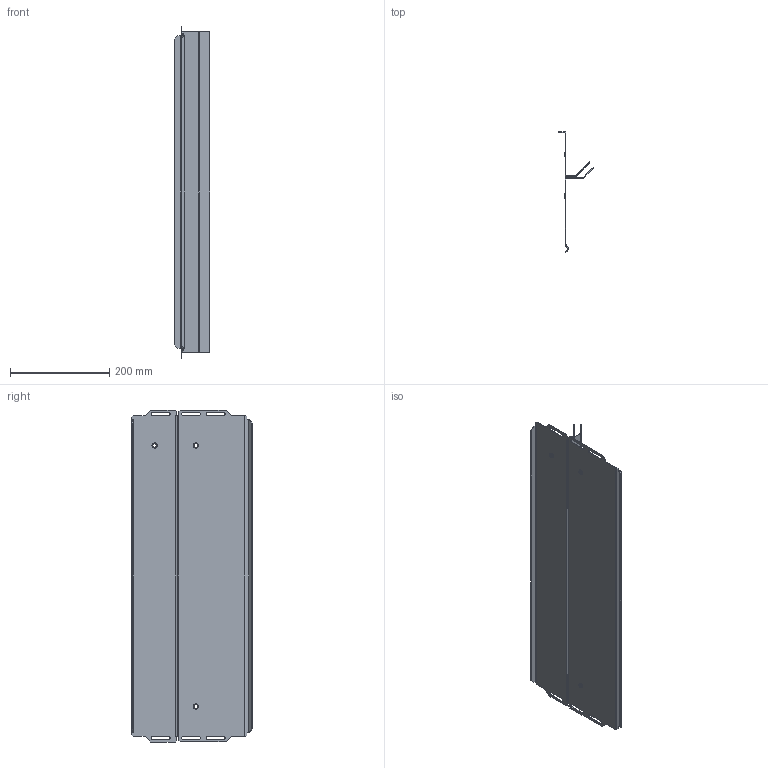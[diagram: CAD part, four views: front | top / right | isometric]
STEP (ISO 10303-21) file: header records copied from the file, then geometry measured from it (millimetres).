
FILE_DESCRIPTION (( 'STEP AP203' ), '1' );
FILE_NAME ('CBPE0608_V1.STEP', '2018-02-28T11:49:16', ( '' ), ( '' ), 'SwSTEP 2.0', 'SolidWorks 2017', '' );
FILE_SCHEMA (( 'CONFIG_CONTROL_DESIGN' ));
Length unit declared in the file: millimetre
Products named in the file (5): 7813-0114_-04; 7813-0115_-04; CBPE0608_V1; 7813-0114; 7813-0115
Assembly tree (2 placements, depth 2):
  CBPE0608_V1
    7813-0114_-04
    7813-0115_-04
  7813-0114
  7813-0115
Bounding box: 70.51 x 241.96 x 667.6 mm (x, y, z)
Volume: 351320.9 mm3; surface area: 479149.1 mm2
Topology: 2 solids, 2 shells, 803 faces, 2168 edges, 1360 vertices
Faces by surface type: plane 699, cylinder 92, torus 12
Entity records: 25115 total; most frequent: CARTESIAN_POINT 4337, ORIENTED_EDGE 4336, DIRECTION 4070, EDGE_CURVE 2168, VECTOR 1884, LINE 1884, VERTEX_POINT 1360, AXIS2_PLACEMENT_3D 1093
